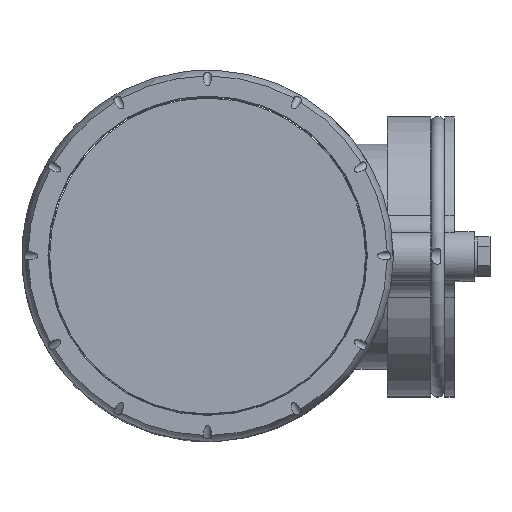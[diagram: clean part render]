
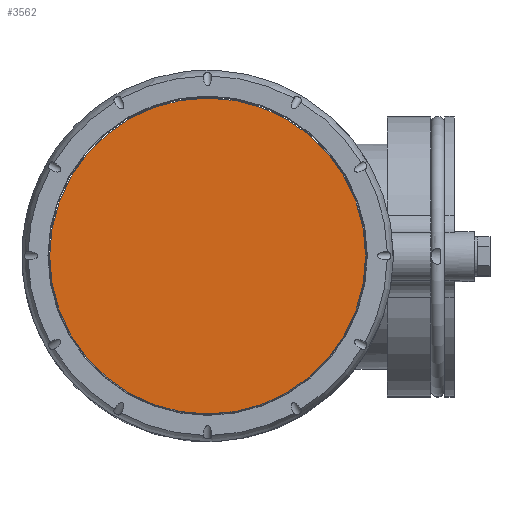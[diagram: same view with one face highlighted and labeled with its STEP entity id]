
A CAD part, top view. The second image highlights one B-rep face of the part: STEP entity #3562.
In plain terms, the highlighted planar face has unit normal (0, 0, 1).
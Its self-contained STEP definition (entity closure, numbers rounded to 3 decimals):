
#825=FACE_OUTER_BOUND('',#1034,.T.);
#1034=EDGE_LOOP('',(#2705));
#1264=CIRCLE('',#3844,80.);
#1513=VERTEX_POINT('',#5643);
#1938=EDGE_CURVE('',#1513,#1513,#1264,.T.);
#2705=ORIENTED_EDGE('',*,*,#1938,.T.);
#3230=PLANE('',#3870);
#3562=ADVANCED_FACE('',(#825),#3230,.T.);
#3844=AXIS2_PLACEMENT_3D('',#5644,#4502,#4503);
#3870=AXIS2_PLACEMENT_3D('',#5692,#4567,#4568);
#4502=DIRECTION('center_axis',(0.,0.,1.));
#4503=DIRECTION('ref_axis',(1.,0.,0.));
#4567=DIRECTION('center_axis',(0.,0.,1.));
#4568=DIRECTION('ref_axis',(1.,0.,0.));
#5643=CARTESIAN_POINT('',(80.,0.,215.));
#5644=CARTESIAN_POINT('Origin',(0.,0.,215.));
#5692=CARTESIAN_POINT('Origin',(0.,0.,215.));
